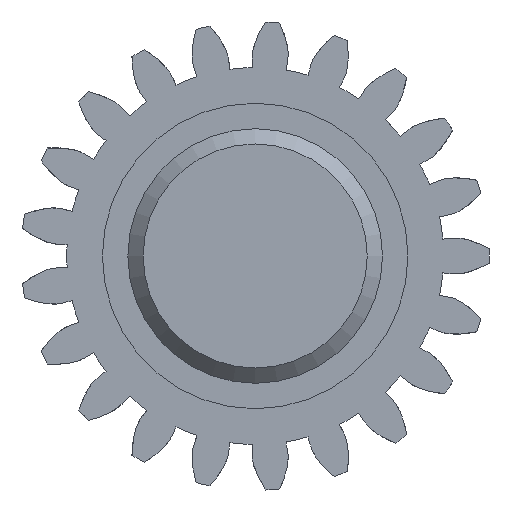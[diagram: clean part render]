
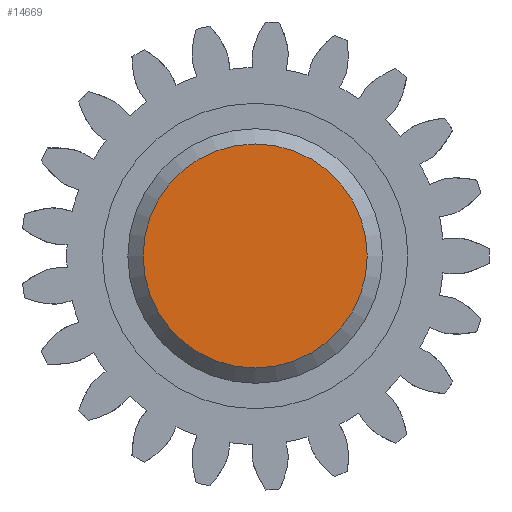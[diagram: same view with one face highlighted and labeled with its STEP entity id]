
A CAD part, front view. The second image highlights one B-rep face of the part: STEP entity #14669.
In plain terms, the highlighted planar face has unit normal (0, -1, 0).
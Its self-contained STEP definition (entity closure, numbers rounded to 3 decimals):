
#14515 = CONICAL_SURFACE('',#14516,12.5,0.785);
#14516 = AXIS2_PLACEMENT_3D('',#14517,#14518,#14519);
#14517 = CARTESIAN_POINT('',(0.,-88.5,0.));
#14518 = DIRECTION('',(0.,1.,0.));
#14519 = DIRECTION('',(1.,0.,-0.));
#14586 = VERTEX_POINT('',#14587);
#14587 = CARTESIAN_POINT('',(11.,-90.,0.));
#14608 = EDGE_CURVE('',#14586,#14586,#14609,.T.);
#14609 = SURFACE_CURVE('',#14610,(#14615,#14622),.PCURVE_S1.);
#14610 = CIRCLE('',#14611,11.);
#14611 = AXIS2_PLACEMENT_3D('',#14612,#14613,#14614);
#14612 = CARTESIAN_POINT('',(0.,-90.,0.));
#14613 = DIRECTION('',(0.,1.,0.));
#14614 = DIRECTION('',(1.,0.,-0.));
#14615 = PCURVE('',#14515,#14616);
#14616 = DEFINITIONAL_REPRESENTATION('',(#14617),#14621);
#14617 = LINE('',#14618,#14619);
#14618 = CARTESIAN_POINT('',(0.,-1.5));
#14619 = VECTOR('',#14620,1.);
#14620 = DIRECTION('',(1.,-0.));
#14621 = ( GEOMETRIC_REPRESENTATION_CONTEXT(2) 
PARAMETRIC_REPRESENTATION_CONTEXT() REPRESENTATION_CONTEXT('2D SPACE',''
  ) );
#14622 = PCURVE('',#14623,#14628);
#14623 = PLANE('',#14624);
#14624 = AXIS2_PLACEMENT_3D('',#14625,#14626,#14627);
#14625 = CARTESIAN_POINT('',(0.,-90.,0.));
#14626 = DIRECTION('',(0.,1.,0.));
#14627 = DIRECTION('',(1.,0.,-0.));
#14628 = DEFINITIONAL_REPRESENTATION('',(#14629),#14633);
#14629 = CIRCLE('',#14630,11.);
#14630 = AXIS2_PLACEMENT_2D('',#14631,#14632);
#14631 = CARTESIAN_POINT('',(0.,0.));
#14632 = DIRECTION('',(1.,0.));
#14633 = ( GEOMETRIC_REPRESENTATION_CONTEXT(2) 
PARAMETRIC_REPRESENTATION_CONTEXT() REPRESENTATION_CONTEXT('2D SPACE',''
  ) );
#14669 = ADVANCED_FACE('',(#14670),#14623,.F.);
#14670 = FACE_BOUND('',#14671,.F.);
#14671 = EDGE_LOOP('',(#14672));
#14672 = ORIENTED_EDGE('',*,*,#14608,.T.);
